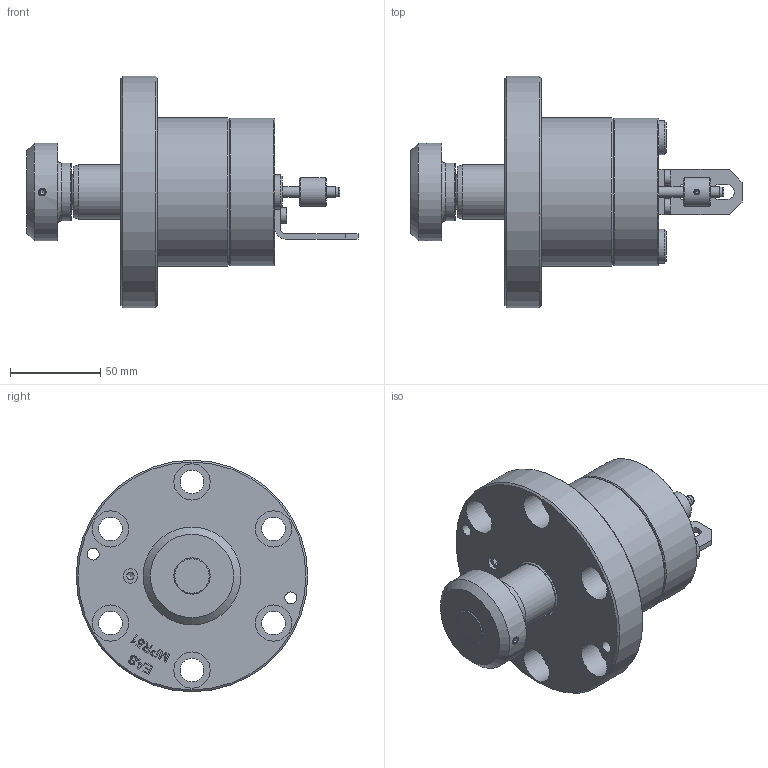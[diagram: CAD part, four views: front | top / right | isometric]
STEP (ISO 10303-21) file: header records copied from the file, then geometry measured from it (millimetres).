
FILE_DESCRIPTION(/* description */ (''),/* implementation_level */ '2;1');
FILE_NAME(/* name */ 'Z:\Standard products\2. QDC Clamping Systems\4. MPR - Double Acting Pull Clamp\MPR51-P (21-02-18).stp',/* time_stamp */ '2018-02-21T11:56:08+01:00',/* author */ ('breep'),/* organization */ (''),/* preprocessor_version */ 'ST-DEVELOPER v16.1',/* originating_system */ 'Autodesk Inventor 2016',/* authorisation */ '');
FILE_SCHEMA (('AUTOMOTIVE_DESIGN { 1 0 10303 214 3 1 1 }'));
Length unit declared in the file: millimetre
Products named in the file (1): Part3
Bounding box: 183.5 x 127.95 x 127.95 mm (x, y, z)
Volume: 601471.4 mm3; surface area: 118969.6 mm2
Topology: 3 solids, 36 shells, 706 faces, 1626 edges, 1052 vertices
Faces by surface type: plane 361, cylinder 147, cone 92, bspline 61, torus 45
Full cylindrical faces by diameter (mm): 2.5 x2, 3 x2, 3.242 x2, 4 x2, 4.134 x8, 4.917 x1, 5 x4, 5.5 x2, 5.9 x1, 6 x5, 6.03 x1, 6.1 x3, 6.647 x8, 8 x7, 8.5 x3, 8.75 x2, 9 x6, 9.8 x1, 10 x1, 11.2 x2, 11.445 x4, 11.6 x2, 13 x12, 13.5 x6, 16 x1, 16.4 x2, 16.8 x2, 17.8 x1, 18.8 x2, 20 x9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
Entity records: 22151 total; most frequent: CARTESIAN_POINT 7418, DIRECTION 2709, ORIENTED_EDGE 2498, EDGE_CURVE 1245, EDGE_LOOP 1107, AXIS2_PLACEMENT_3D 1055, VERTEX_POINT 947, STYLED_ITEM 707
